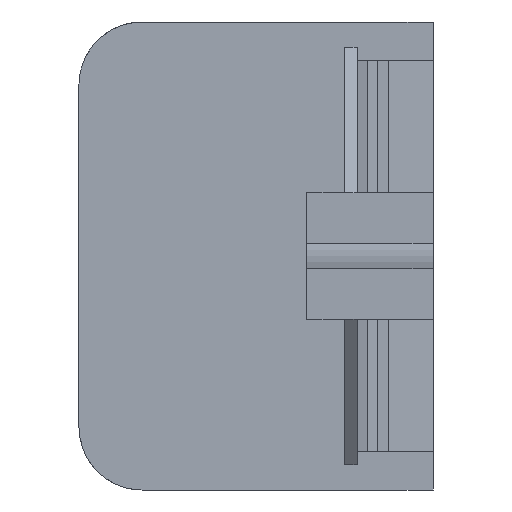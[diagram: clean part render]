
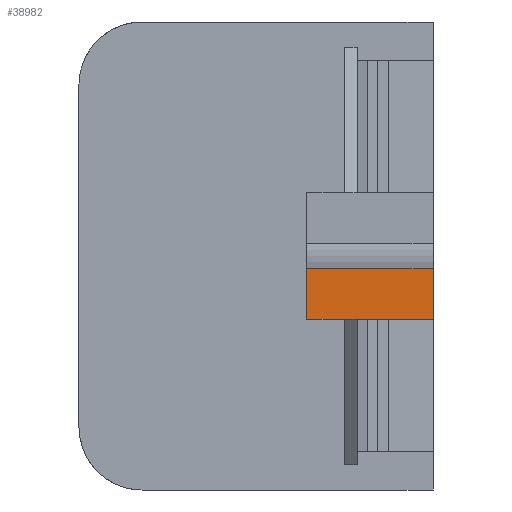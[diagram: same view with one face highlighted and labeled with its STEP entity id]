
A CAD part, left-side view. The second image highlights one B-rep face of the part: STEP entity #38982.
In plain terms, the highlighted planar face has unit normal (-1, 0, 0).
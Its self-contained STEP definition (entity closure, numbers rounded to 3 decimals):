
#2455 = ORIENTED_EDGE ( 'NONE', *, *, #3628, .T. ) ;
#3628 = EDGE_CURVE ( 'NONE', #48223, #10563, #32031, .T. ) ;
#4581 = EDGE_CURVE ( 'NONE', #63102, #98074, #63929, .T. ) ;
#5230 = VERTEX_POINT ( 'NONE', #100936 ) ;
#5746 = VECTOR ( 'NONE', #89618, 1000. ) ;
#7203 = EDGE_CURVE ( 'NONE', #63102, #48223, #82323, .T. ) ;
#9342 = VECTOR ( 'NONE', #48360, 1000. ) ;
#10531 = VERTEX_POINT ( 'NONE', #55425 ) ;
#10563 = VERTEX_POINT ( 'NONE', #15782 ) ;
#12560 = EDGE_CURVE ( 'NONE', #5230, #10531, #76966, .T. ) ;
#13344 = DIRECTION ( 'NONE',  ( 0., 0., -1. ) ) ;
#15452 = AXIS2_PLACEMENT_3D ( 'NONE', #72481, #71777, #88616 ) ;
#15782 = CARTESIAN_POINT ( 'NONE',  ( -136., 0., -5. ) ) ;
#19197 = VECTOR ( 'NONE', #100456, 1000. ) ;
#21352 = CARTESIAN_POINT ( 'NONE',  ( -136., 0., 0. ) ) ;
#26524 = ORIENTED_EDGE ( 'NONE', *, *, #12560, .F. ) ;
#28637 = FACE_OUTER_BOUND ( 'NONE', #41826, .T. ) ;
#32031 = LINE ( 'NONE', #21352, #70922 ) ;
#33414 = CARTESIAN_POINT ( 'NONE',  ( -136., -10., -5. ) ) ;
#34493 = VECTOR ( 'NONE', #71167, 1000. ) ;
#37855 = DIRECTION ( 'NONE',  ( 0., 0., -1. ) ) ;
#37957 = CARTESIAN_POINT ( 'NONE',  ( -136., -10., 0. ) ) ;
#38982 = ADVANCED_FACE ( 'NONE', ( #28637 ), #56324, .T. ) ;
#40074 = ORIENTED_EDGE ( 'NONE', *, *, #7203, .T. ) ;
#40918 = ORIENTED_EDGE ( 'NONE', *, *, #73594, .T. ) ;
#41826 = EDGE_LOOP ( 'NONE', ( #58591, #63362, #40074, #2455, #40918, #26524 ) ) ;
#42199 = CARTESIAN_POINT ( 'NONE',  ( -136., -10., -1. ) ) ;
#42576 = VECTOR ( 'NONE', #13344, 1000. ) ;
#43309 = CARTESIAN_POINT ( 'NONE',  ( -136., 0., -1. ) ) ;
#48223 = VERTEX_POINT ( 'NONE', #43309 ) ;
#48360 = DIRECTION ( 'NONE',  ( 0., -1., 0. ) ) ;
#52061 = CARTESIAN_POINT ( 'NONE',  ( -136., 0., -5. ) ) ;
#55425 = CARTESIAN_POINT ( 'NONE',  ( -136., -3., -5. ) ) ;
#56324 = PLANE ( 'NONE',  #15452 ) ;
#56405 = CARTESIAN_POINT ( 'NONE',  ( -136., 0., -5. ) ) ;
#58591 = ORIENTED_EDGE ( 'NONE', *, *, #73590, .F. ) ;
#63102 = VERTEX_POINT ( 'NONE', #42199 ) ;
#63362 = ORIENTED_EDGE ( 'NONE', *, *, #4581, .F. ) ;
#63929 = LINE ( 'NONE', #37957, #42576 ) ;
#66149 = CARTESIAN_POINT ( 'NONE',  ( -136., 0., -1. ) ) ;
#67097 = LINE ( 'NONE', #96407, #34493 ) ;
#70922 = VECTOR ( 'NONE', #37855, 1000. ) ;
#71167 = DIRECTION ( 'NONE',  ( 0., 1., 0. ) ) ;
#71777 = DIRECTION ( 'NONE',  ( -1., 0., 0. ) ) ;
#72481 = CARTESIAN_POINT ( 'NONE',  ( -136., 0., 0. ) ) ;
#73590 = EDGE_CURVE ( 'NONE', #98074, #5230, #67097, .T. ) ;
#73594 = EDGE_CURVE ( 'NONE', #10563, #10531, #97254, .T. ) ;
#76966 = LINE ( 'NONE', #52061, #19197 ) ;
#82323 = LINE ( 'NONE', #66149, #5746 ) ;
#88616 = DIRECTION ( 'NONE',  ( 0., -1., 0. ) ) ;
#89618 = DIRECTION ( 'NONE',  ( 0., 1., 0. ) ) ;
#96407 = CARTESIAN_POINT ( 'NONE',  ( -136., -10., -5. ) ) ;
#97254 = LINE ( 'NONE', #56405, #9342 ) ;
#98074 = VERTEX_POINT ( 'NONE', #33414 ) ;
#100456 = DIRECTION ( 'NONE',  ( 0., 1., 0. ) ) ;
#100936 = CARTESIAN_POINT ( 'NONE',  ( -136., -4., -5. ) ) ;
